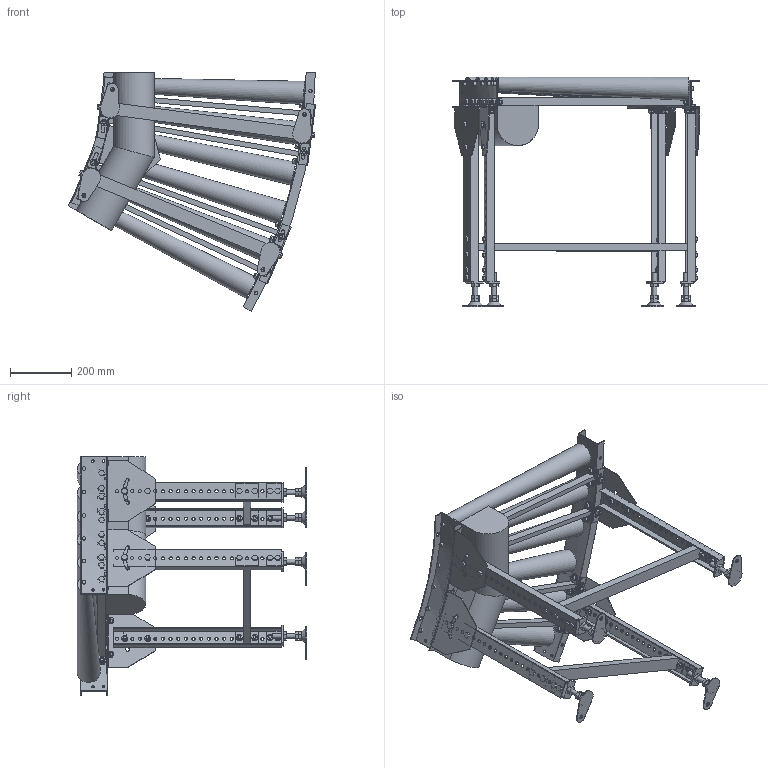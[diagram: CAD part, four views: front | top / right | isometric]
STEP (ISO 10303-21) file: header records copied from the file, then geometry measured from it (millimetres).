
FILE_DESCRIPTION( (''), '2;1');
FILE_NAME ('WEB-MCD-50-630-100-30°-C9.stp','2026-02-20T12:17:52',(''),(''),'spGate 20.6.2 (****-****-****-****)','','');
FILE_SCHEMA (('AUTOMOTIVE_DESIGN'));
Length unit declared in the file: millimetre
Products named in the file (28): WEB-MCD-50-630-100-30_-C9; TEMP_X_T-prt0; TEMP_X_T-prt1; TEMP_X_T-prt2; TEMP_X_T-prt3; TEMP_X_T-prt4; TEMP_X_T-prt5; TEMP_X_T-prt6; TEMP_X_T-prt7; TEMP_X_T-prt8; TEMP_X_T-prt9; TEMP_X_T-prt10; TEMP_X_T-prt11; TEMP_X_T-prt12; TEMP_X_T-prt13; TEMP_X_T-prt14; TEMP_X_T-prt15; TEMP_X_T-prt16; TEMP_X_T-prt17; TEMP_X_T-prt18; TEMP_X_T-prt19; TEMP_X_T-prt20; TEMP_X_T-prt21; TEMP_X_T-prt22; TEMP_X_T-prt23; TEMP_X_T-prt24; TEMP_X_T-prt25; TEMP_X_T-prt26
Assembly tree (27 placements, depth 2):
  WEB-MCD-50-630-100-30_-C9
    TEMP_X_T-prt0
    TEMP_X_T-prt1
    TEMP_X_T-prt2
    TEMP_X_T-prt3
    TEMP_X_T-prt4
    TEMP_X_T-prt5
    TEMP_X_T-prt6
    TEMP_X_T-prt7
    TEMP_X_T-prt8
    TEMP_X_T-prt9
    TEMP_X_T-prt10
    TEMP_X_T-prt11
    TEMP_X_T-prt12
    TEMP_X_T-prt13
    TEMP_X_T-prt14
    TEMP_X_T-prt15
    TEMP_X_T-prt16
    TEMP_X_T-prt17
    TEMP_X_T-prt18
    TEMP_X_T-prt19
    TEMP_X_T-prt20
    TEMP_X_T-prt21
    TEMP_X_T-prt22
    TEMP_X_T-prt23
    TEMP_X_T-prt24
    TEMP_X_T-prt25
    TEMP_X_T-prt26
Bounding box: 807.62 x 750 x 780 mm (x, y, z)
Volume: 23988769.1 mm3; surface area: 2699221.8 mm2
Topology: 27 solids, 47 shells, 2179 faces, 5269 edges, 3384 vertices
Faces by surface type: plane 1828, cylinder 341, bspline 10
Full cylindrical faces by diameter (mm): 8.5 x8, 10 x60, 10.5 x92, 11 x2, 12 x12, 13 x4, 14 x5, 16 x4, 18.4 x42, 18.5 x8, 21 x30
Entity records: 109907 total; most frequent: CARTESIAN_POINT 13757, DIRECTION 10927, ORIENTED_EDGE 10538, COLOUR_RGB 7475, PRESENTATION_STYLE_ASSIGNMENT 7475, STYLED_ITEM 7475, EDGE_CURVE 5269, DRAUGHTING_PRE_DEFINED_CURVE_FONT 5269
